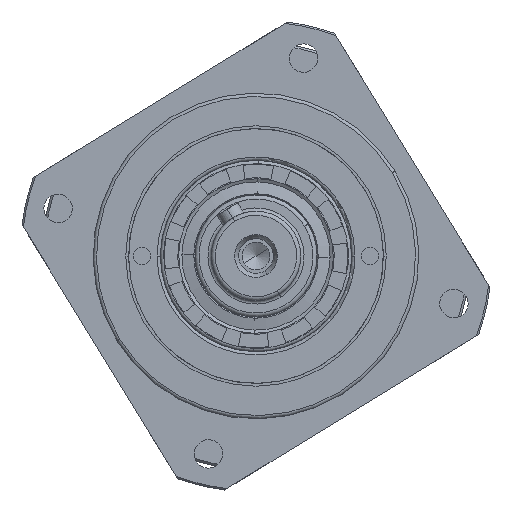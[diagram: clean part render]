
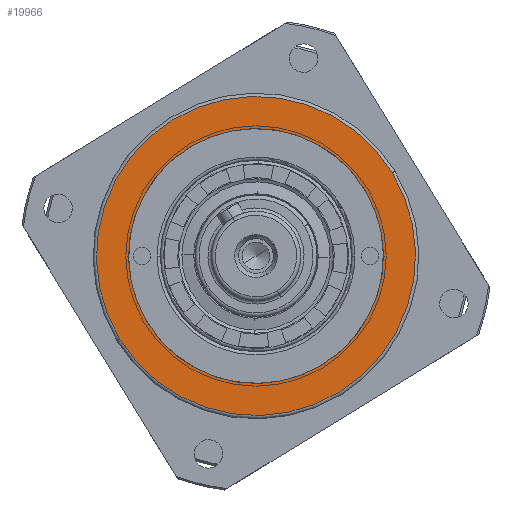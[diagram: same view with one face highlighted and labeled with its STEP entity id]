
A CAD part, left-side view. The second image highlights one B-rep face of the part: STEP entity #19966.
In plain terms, the highlighted planar face has unit normal (-1, 0, 0).
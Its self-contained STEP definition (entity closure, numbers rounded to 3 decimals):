
#1860 = DIRECTION ( 'NONE',  ( 0., 0., 1. ) ) ;
#1870 = DIRECTION ( 'NONE',  ( 1., 0., 0. ) ) ;
#1936 = CARTESIAN_POINT ( 'NONE',  ( -615.585, -5503.681, 0. ) ) ;
#2724 = CARTESIAN_POINT ( 'NONE',  ( -615.585, -5503.681, -39.2 ) ) ;
#2799 = CIRCLE ( 'NONE', #42260, 31.3 ) ;
#3113 = VERTEX_POINT ( 'NONE', #15731 ) ;
#3316 = EDGE_LOOP ( 'NONE', ( #45619, #5585 ) ) ;
#5585 = ORIENTED_EDGE ( 'NONE', *, *, #53467, .F. ) ;
#7709 = DIRECTION ( 'NONE',  ( 1., 0., 0. ) ) ;
#15731 = CARTESIAN_POINT ( 'NONE',  ( -615.585, -5503.681, 31.3 ) ) ;
#16449 = VERTEX_POINT ( 'NONE', #27691 ) ;
#18324 = AXIS2_PLACEMENT_3D ( 'NONE', #32450, #7709, #36568 ) ;
#19099 = CARTESIAN_POINT ( 'NONE',  ( -615.585, -5503.681, 0. ) ) ;
#19173 = CIRCLE ( 'NONE', #32870, 39.2 ) ;
#19966 = ADVANCED_FACE ( 'NONE', ( #43990, #25836 ), #35697, .F. ) ;
#21500 = CARTESIAN_POINT ( 'NONE',  ( -615.585, -5503.681, 0. ) ) ;
#21521 = VERTEX_POINT ( 'NONE', #2724 ) ;
#22711 = EDGE_CURVE ( 'NONE', #30561, #21521, #19173, .T. ) ;
#23324 = DIRECTION ( 'NONE',  ( 0., 0., 1. ) ) ;
#23427 = CIRCLE ( 'NONE', #40217, 31.3 ) ;
#25647 = DIRECTION ( 'NONE',  ( 0., 0., 1. ) ) ;
#25836 = FACE_OUTER_BOUND ( 'NONE', #51717, .T. ) ;
#27691 = CARTESIAN_POINT ( 'NONE',  ( -615.585, -5503.681, -31.3 ) ) ;
#28943 = EDGE_CURVE ( 'NONE', #21521, #30561, #48972, .T. ) ;
#30561 = VERTEX_POINT ( 'NONE', #51473 ) ;
#31708 = ORIENTED_EDGE ( 'NONE', *, *, #22711, .F. ) ;
#32450 = CARTESIAN_POINT ( 'NONE',  ( -615.585, -5503.681, 0. ) ) ;
#32870 = AXIS2_PLACEMENT_3D ( 'NONE', #1936, #1870, #1860 ) ;
#34379 = DIRECTION ( 'NONE',  ( 0., 0., -1. ) ) ;
#34387 = DIRECTION ( 'NONE',  ( 1., 0., 0. ) ) ;
#34441 = CARTESIAN_POINT ( 'NONE',  ( -615.585, 0., 0. ) ) ;
#35697 = PLANE ( 'NONE',  #41770 ) ;
#36568 = DIRECTION ( 'NONE',  ( 0., 0., 1. ) ) ;
#40217 = AXIS2_PLACEMENT_3D ( 'NONE', #19099, #48073, #23324 ) ;
#41770 = AXIS2_PLACEMENT_3D ( 'NONE', #34441, #34387, #34379 ) ;
#42260 = AXIS2_PLACEMENT_3D ( 'NONE', #21500, #50468, #25647 ) ;
#43990 = FACE_BOUND ( 'NONE', #3316, .T. ) ;
#45619 = ORIENTED_EDGE ( 'NONE', *, *, #53151, .F. ) ;
#48073 = DIRECTION ( 'NONE',  ( -1., 0., 0. ) ) ;
#48204 = ORIENTED_EDGE ( 'NONE', *, *, #28943, .F. ) ;
#48972 = CIRCLE ( 'NONE', #18324, 39.2 ) ;
#50468 = DIRECTION ( 'NONE',  ( -1., 0., 0. ) ) ;
#51473 = CARTESIAN_POINT ( 'NONE',  ( -615.585, -5503.681, 39.2 ) ) ;
#51717 = EDGE_LOOP ( 'NONE', ( #31708, #48204 ) ) ;
#53151 = EDGE_CURVE ( 'NONE', #3113, #16449, #2799, .T. ) ;
#53467 = EDGE_CURVE ( 'NONE', #16449, #3113, #23427, .T. ) ;
